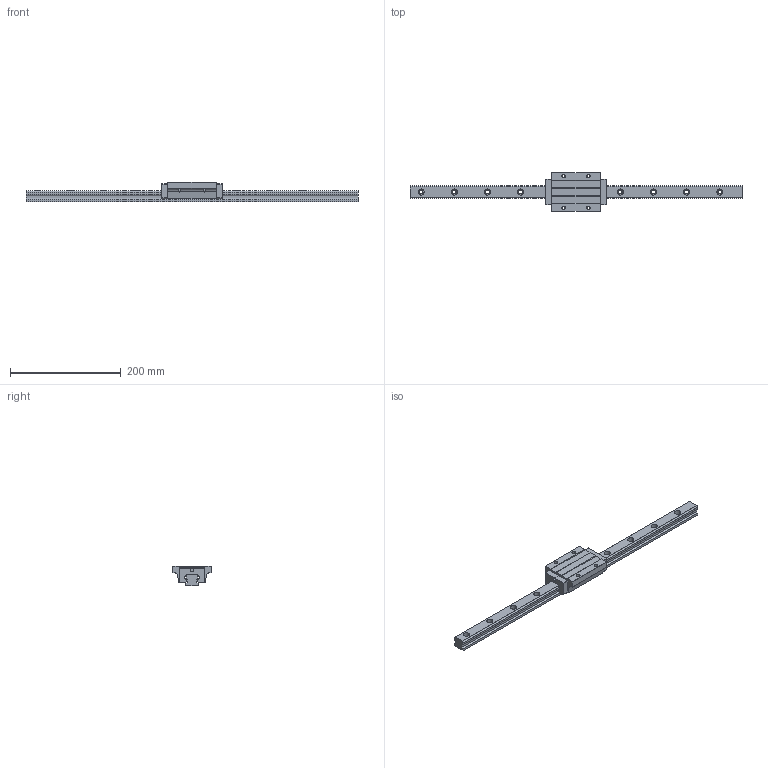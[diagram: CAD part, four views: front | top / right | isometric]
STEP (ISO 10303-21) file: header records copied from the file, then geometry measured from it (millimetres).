
FILE_DESCRIPTION (( 'STEP AP203' ), '1' );
FILE_NAME ('TRH25FE-XN.STEP', '2023-01-31T09:23:26', ( '' ), ( '' ), 'SwSTEP 2.0', 'SolidWorks 2019', '' );
FILE_SCHEMA (( 'CONFIG_CONTROL_DESIGN' ));
Length unit declared in the file: millimetre
Products named in the file (1): TRH25FE-XN
Bounding box: 600 x 70 x 36 mm (x, y, z)
Volume: 374193.8 mm3; surface area: 89983.3 mm2
Topology: 4 solids, 4 shells, 190 faces, 502 edges, 328 vertices
Faces by surface type: plane 94, cylinder 92, sphere 4
Entity records: 6329 total; most frequent: CARTESIAN_POINT 1389, DIRECTION 1032, ORIENTED_EDGE 996, EDGE_CURVE 498, AXIS2_PLACEMENT_3D 363, VERTEX_POINT 328, VECTOR 306, LINE 306
